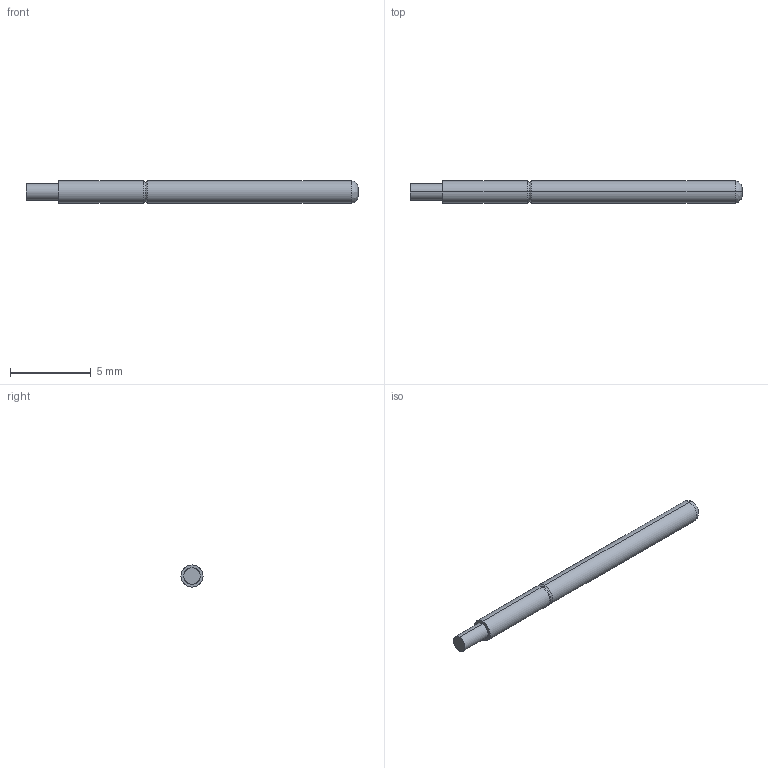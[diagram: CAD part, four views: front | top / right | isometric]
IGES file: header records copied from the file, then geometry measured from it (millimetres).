
Start section: SolidWorks IGES file using analytic representation for surfaces
Global section: file name: Z:\probe solid model mockups\Solidworks models\IGES Files\EPA-2\EPA-2C40 Full.IGS; native system: SolidWorks 2006 by SolidWorks Corporation; preprocessor: SolidWorks 2006 by SolidWorks Corporation; author: tsakatani; date: 071220.161552; units: inch
Bounding box: 20.57 x 1.37 x 1.37 mm (x, y, z)
Surface area: 88.6 mm2 (no closed solid volume)
Topology: 0 solids, 0 shells, 15 faces, 112 edges, 112 vertices
Faces by surface type: bspline 9, revolution 6
